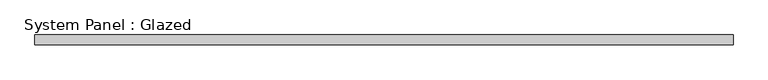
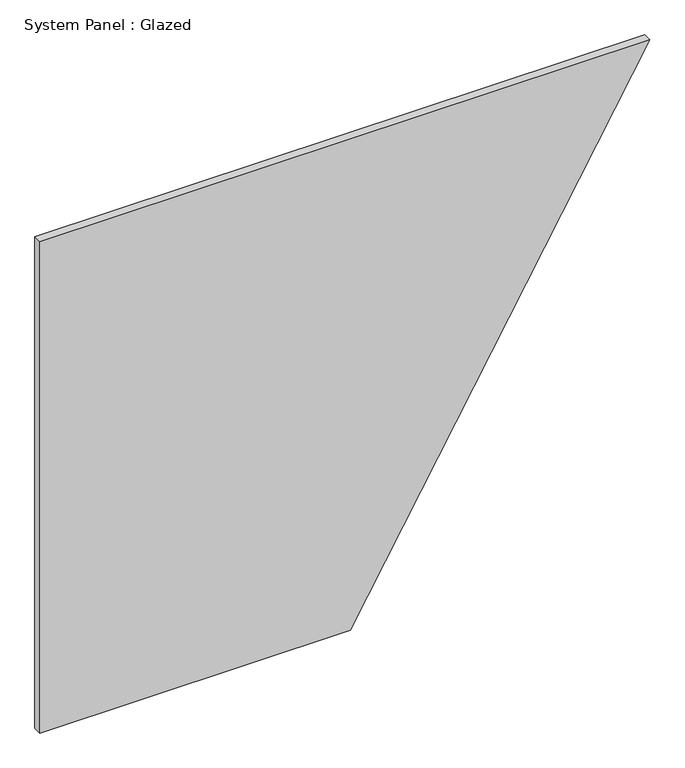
"""IFC4 building model written with IfcOpenShell, lengths in millimetres: plate geometry, System Panel : Glazed."""

from ifc_helpers import new_model, si_unit, frame, origin, place, context, project, spatial, polyline, outline, extrude, source, transform, mapped, element, save


def system_panel_glazed_01caf445(model_context):
    return source(origin(), model_context, "Body", "SweptSolid", [
        extrude(outline(polyline([(0.0, -895.0514983), (0.0, 15.169688), (1524.0, 895.0514983), (1524.0, -895.0514983), (0.0, -895.0514983)])), frame((0.0, 19.05, 0.0), z_axis=(0.0, 1.0, 0.0), x_axis=(0.0, 0.0, 1.0)), (0.0, 0.0, 1.0), 25.4),
    ])


if __name__ == "__main__":
    model = new_model("IFC4")
    model_context = context("Model", 3, world=origin())
    ifc_project = project(units=[si_unit("LENGTHUNIT", "METRE", prefix="MILLI")], contexts=[model_context])
    site = spatial("IfcSite", under=ifc_project)
    building = spatial("IfcBuilding", under=site)
    placement = place(None, origin())
    system_panel_glazed_shape = system_panel_glazed_01caf445(model_context)
    element("IfcPlate", 1, ObjectType="System Panel : Glazed", at=placement, inside=building, context=model_context, shape_type="MappedRepresentation", body=[
        mapped(system_panel_glazed_shape, transform((0.0, 0.0, 0.0), x_axis=(1.0, 0.0, 0.0), y_axis=(0.0, 1.0, 0.0), z_axis=(0.0, 0.0, 1.0))),
    ])
    save(model, "model.ifc")
